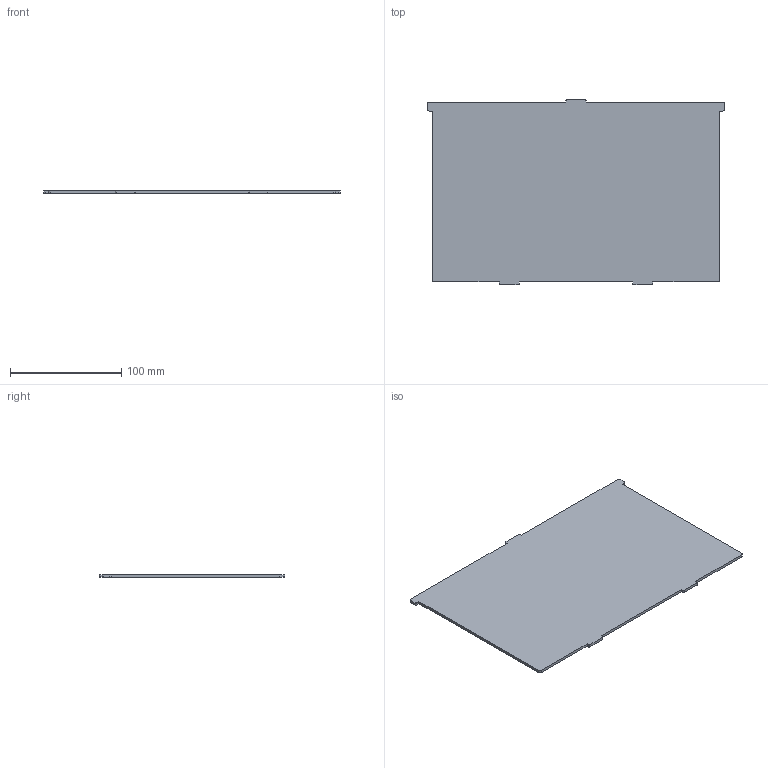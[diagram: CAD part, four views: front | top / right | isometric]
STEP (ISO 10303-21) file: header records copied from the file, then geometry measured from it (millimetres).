
FILE_DESCRIPTION((''),'2;1');
FILE_NAME('284985','2022-11-24T13:38:56',('vmorco'),(''),'CREO PARAMETRIC BY PTC INC, 2020454','CREO PARAMETRIC BY PTC INC, 2020454','');
FILE_SCHEMA(('AUTOMOTIVE_DESIGN { 1 0 10303 214 1 1 1 1 }'));
Length unit declared in the file: millimetre
Products named in the file (1): 284985
Bounding box: 266 x 166.5 x 2.5 mm (x, y, z)
Volume: 104655.3 mm3; surface area: 85884.3 mm2
Topology: 1 solids, 1 shells, 34 faces, 96 edges, 64 vertices
Faces by surface type: plane 22, cylinder 12
Entity records: 1175 total; most frequent: CARTESIAN_POINT 196, ORIENTED_EDGE 192, DIRECTION 188, EDGE_CURVE 96, VECTOR 72, LINE 72, VERTEX_POINT 64, AXIS2_PLACEMENT_3D 58
